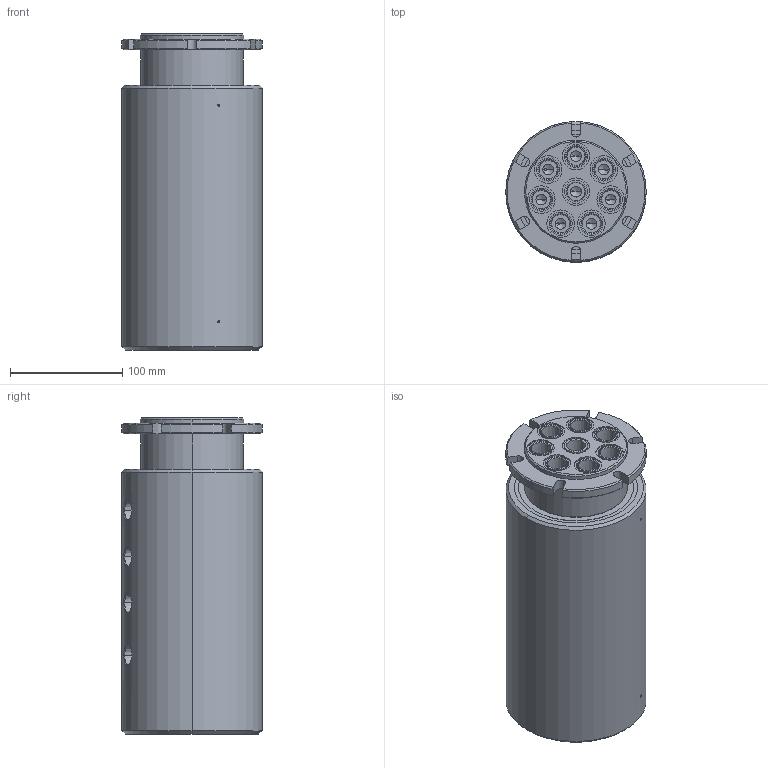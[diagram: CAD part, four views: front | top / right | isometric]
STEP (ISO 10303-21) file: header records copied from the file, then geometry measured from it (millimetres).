
FILE_DESCRIPTION (( 'STEP AP214' ), '1' );
FILE_NAME ('GP(M)-380.STEP', '2013-02-05T23:05:40', ( '' ), ( '' ), 'SwSTEP 2.0', 'SolidWorks 2011', '' );
FILE_SCHEMA (( 'AUTOMOTIVE_DESIGN' ));
Length unit declared in the file: inch
Products named in the file (1): GP(M)-380
Bounding box: 125.4 x 125.4 x 282.4 mm (x, y, z)
Volume: 3163383.4 mm3; surface area: 167420.3 mm2
Topology: 1 solids, 1 shells, 321 faces, 762 edges, 463 vertices
Faces by surface type: cylinder 126, cone 114, plane 63, bspline 16, torus 2
Entity records: 11210 total; most frequent: CARTESIAN_POINT 3593, DIRECTION 1563, ORIENTED_EDGE 1428, EDGE_CURVE 714, AXIS2_PLACEMENT_3D 643, VERTEX_POINT 463, EDGE_LOOP 389, CIRCLE 337
